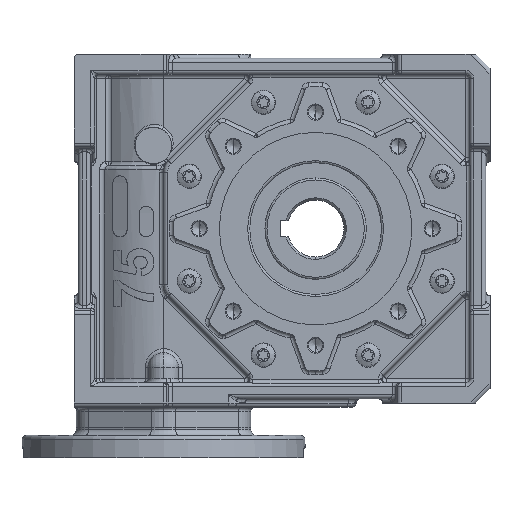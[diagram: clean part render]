
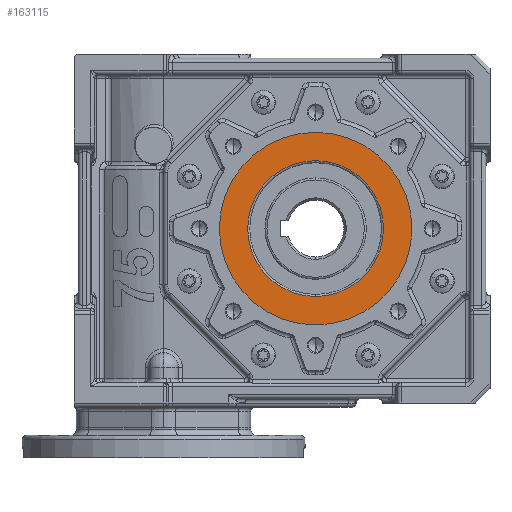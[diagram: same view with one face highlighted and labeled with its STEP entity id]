
A CAD part, left-side view. The second image highlights one B-rep face of the part: STEP entity #163115.
In plain terms, the highlighted planar face has unit normal (-1, 0, 0).
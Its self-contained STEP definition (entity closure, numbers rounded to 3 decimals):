
#26920 = CIRCLE ( 'NONE', #26983, 33.5 ) ;
#26928 = CARTESIAN_POINT ( 'NONE',  ( -60., 0., -33.5 ) ) ;
#26979 = CARTESIAN_POINT ( 'NONE',  ( -60., 0., 33.5 ) ) ;
#26980 = DIRECTION ( 'NONE',  ( 0., 0., 1. ) ) ;
#26981 = DIRECTION ( 'NONE',  ( -1., 0., 0. ) ) ;
#26982 = CARTESIAN_POINT ( 'NONE',  ( -60., 0., 0. ) ) ;
#26983 = AXIS2_PLACEMENT_3D ( 'NONE', #26982, #26981, #26980 ) ;
#27080 = CARTESIAN_POINT ( 'NONE',  ( -60., 0., 47.5 ) ) ;
#27081 = CARTESIAN_POINT ( 'NONE',  ( -60., 0., -47.5 ) ) ;
#27082 = DIRECTION ( 'NONE',  ( 0., 0., -1. ) ) ;
#27083 = DIRECTION ( 'NONE',  ( 1., 0., 0. ) ) ;
#27084 = AXIS2_PLACEMENT_3D ( 'NONE', #27090, #27083, #27082 ) ;
#27085 = CIRCLE ( 'NONE', #27084, 47.5 ) ;
#27090 = CARTESIAN_POINT ( 'NONE',  ( -60., 0., 0. ) ) ;
#54706 = FACE_OUTER_BOUND ( 'NONE', #162942, .T. ) ;
#54751 = DIRECTION ( 'NONE',  ( 0., 0., -1. ) ) ;
#54752 = DIRECTION ( 'NONE',  ( -1., 0., 0. ) ) ;
#54753 = CARTESIAN_POINT ( 'NONE',  ( -60., 0., 0. ) ) ;
#54754 = AXIS2_PLACEMENT_3D ( 'NONE', #54753, #54752, #54751 ) ;
#54755 = PLANE ( 'NONE',  #54754 ) ;
#54770 = FACE_BOUND ( 'NONE', #162949, .T. ) ;
#54844 = DIRECTION ( 'NONE',  ( 0., 0., 1. ) ) ;
#54845 = DIRECTION ( 'NONE',  ( -1., 0., 0. ) ) ;
#54846 = CARTESIAN_POINT ( 'NONE',  ( -60., 0., 0. ) ) ;
#54847 = AXIS2_PLACEMENT_3D ( 'NONE', #54846, #54845, #54844 ) ;
#54854 = CIRCLE ( 'NONE', #54847, 33.5 ) ;
#54857 = DIRECTION ( 'NONE',  ( 0., 0., -1. ) ) ;
#54858 = DIRECTION ( 'NONE',  ( 1., 0., 0. ) ) ;
#54859 = CARTESIAN_POINT ( 'NONE',  ( -60., 0., 0. ) ) ;
#54860 = AXIS2_PLACEMENT_3D ( 'NONE', #54859, #54858, #54857 ) ;
#54864 = CIRCLE ( 'NONE', #54860, 47.5 ) ;
#156122 = VERTEX_POINT ( 'NONE', #26928 ) ;
#156137 = EDGE_CURVE ( 'NONE', #156122, #156138, #26920, .T. ) ;
#156138 = VERTEX_POINT ( 'NONE', #26979 ) ;
#156265 = EDGE_CURVE ( 'NONE', #156267, #156269, #27085, .T. ) ;
#156267 = VERTEX_POINT ( 'NONE', #27081 ) ;
#156269 = VERTEX_POINT ( 'NONE', #27080 ) ;
#162942 = EDGE_LOOP ( 'NONE', ( #162946, #163188 ) ) ;
#162946 = ORIENTED_EDGE ( 'NONE', *, *, #156265, .F. ) ;
#162949 = EDGE_LOOP ( 'NONE', ( #163196, #163033 ) ) ;
#163033 = ORIENTED_EDGE ( 'NONE', *, *, #156137, .F. ) ;
#163115 = ADVANCED_FACE ( 'NONE', ( #54706, #54770 ), #54755, .T. ) ;
#163188 = ORIENTED_EDGE ( 'NONE', *, *, #163190, .F. ) ;
#163190 = EDGE_CURVE ( 'NONE', #156269, #156267, #54864, .T. ) ;
#163196 = ORIENTED_EDGE ( 'NONE', *, *, #163200, .F. ) ;
#163200 = EDGE_CURVE ( 'NONE', #156138, #156122, #54854, .T. ) ;
